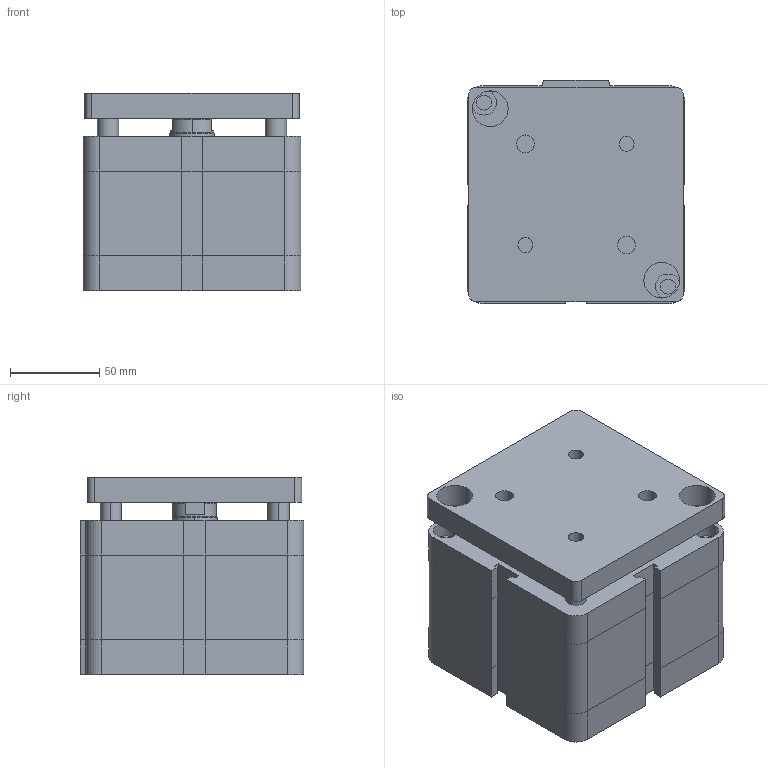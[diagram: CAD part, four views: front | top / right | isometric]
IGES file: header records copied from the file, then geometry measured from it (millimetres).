
Global section: file name: No Iges File Name specified; native system: Autodesk Inventor 2009; preprocessor: AutoDesk Inventor Iges Exporter R2009; author: maffial1; date: 20090420.201421; units: millimetre
Bounding box: 122 x 125 x 110.5 mm (x, y, z)
Volume: 1451257.3 mm3; surface area: 131058.2 mm2
Topology: 2 solids, 2 shells, 212 faces, 486 edges, 298 vertices
Faces by surface type: plane 111, bspline 67, cylinder 26, cone 8
